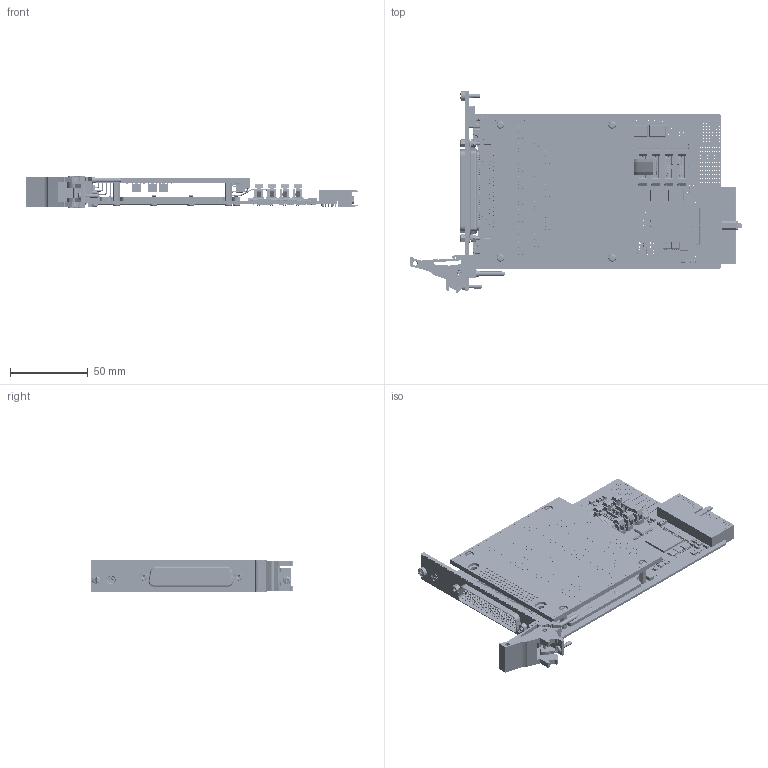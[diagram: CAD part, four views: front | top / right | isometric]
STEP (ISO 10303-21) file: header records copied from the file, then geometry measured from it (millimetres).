
FILE_DESCRIPTION (( 'STEP AP214' ), '1' );
FILE_NAME ('40-739-001 PXI MIL-STD-1553 Multiplexer Single 16-Channel 2-Pole.step', '2022-05-31T08:12:31', ( '' ), ( '' ), 'SwSTEP 2.0', 'SolidWorks 2021', '' );
FILE_SCHEMA (( 'AUTOMOTIVE_DESIGN' ));
Length unit declared in the file: millimetre
Products named in the file (83): C-MS-1069 Shielded Power Inductor; C-IC-548 1-Bit Flip-Flop 8-Pin SM8; C-CP-034; Z-MS-3676 8-Way Ribbon 2 inch; C-RS-490 Res 0603 82K SMT; C-BK-026 Bush Front Panel Mounting; C-SC-056 80V 250mA (DC) SOD323 Diode; C-FX-042 Screw M2.5x6 CSK Pozi_M 2.5x06 - C-FX-042; C-SC-146 Dual Transistor SOT-14; C-CN-107-BODY; P-FX-017 M2,5 Collar Posi-Slot Screw; C-MS-803 BEAD 120R 0603 2A 0R05 25%; C-CP-124 CAP 10nF CERAMIC SMT 0402; C-FX-165 Handle Body; C-FX-165 CPCI Ejector Handle; C-IC-458 LDO VOLTAGE REGULATOR 1.2V SOT; C-RS-1487 RES 100k 0.1W 25PPM 0603; C-IC-158 Buffer 3-State SOT-23 5-Pin; C-IC-338 4-Channel Digital Isolator 16-Pin SOIC W; C-IC-497 High Accuracy 3V to 17V Step Down Converter; A-FP-1088-L1 PXI 1-Slot Reversed 78-Way D-Type FP Assy; C-CP-131 CAP 3.3nF CERAMIC SMT 0402; C-CP-175 CAP 22uF 1206 25V X5R 10%; C-IC-425 SOICN 8PIN SD; C-CN-073-SCREW 4-40 UNC Screwlock_5mm Hexagonal spacer; C-RS-190 Res 0R0 SIZE 0603 SMT; C-CP-239  Power Line Filter; C-CN-073-NUT M2-5 Screwlock nut_C-FX-028 M2,5 Nut; A-PC-1416-A-# MIL-STD 16-1 MUX Daughter; C-CP-141 CAP 10UF 1206 35V X5R 10%; C-FX-1151 Hex Standoff, F-F, M2.5x12 4mm A-F, St_12mm Hexagonal spacer; C-CP-130 CAP 1uF CERAMIC SMT 0603; C-RS-521 Res 120R (0603) 1-16W 1% 100pp; C-CN-073 Screwlock 8mm Screw Lenght_1.5mm Space; C-BP-015 PXI 3U x 1 Slot Blank Panel; Z-FX-2001 FP Fixing - Bush + Screw; C-FX-025 Pcb Mounting Bracket; C-IC-310 SOT353 SD; C-CN-939 8-Way Ribbon Cable assembly 2 in _40-739; A-PC-1323-A-# RF MUX MOTHERBOARD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
Assembly tree (282 placements, depth 5):
  40-739-001 PXI MIL-STD-1553 Multiplexer Single 16-Channel 2-Pole
    A-PC-1323-A RF MUX MOTHERBOARD
      A-PC-1323-A-# RF MUX MOTHERBOARD
        C-PC-1323 RF MUX MOTHERBOARD WITH PXIe
        C-CN-355 Compact pci connector 3_Render
        C-CN-897 2x8 way Connector 1.27 pitch  x4
        C-CN-1071
          C-CN-107-BODY
          C-CN-107-PIN  x8
        C-CP-033 Capacitor 10nF SMT 0603  x3
        C-CP-034  x31
        C-CP-099 CAP 0.1uF 16V 0402 SMT  x14
        C-CP-124 CAP 10nF CERAMIC SMT 0402  x29
        C-CP-130 CAP 1uF CERAMIC SMT 0603  x4
        C-CP-131 CAP 3.3nF CERAMIC SMT 0402
        C-CP-139 CAP 4.7UF 1206 16V X7R 10%  x4
        C-CP-141 CAP 10UF 1206 35V X5R 10%  x8
        C-CP-175 CAP 22uF 1206 25V X5R 10%  x7
        C-CP-239  Power Line Filter  x3
        C-IC-158 Buffer 3-State SOT-23 5-Pin
        C-IC-310 SOT353 SD
        C-IC-338 4-Channel Digital Isolator 16-Pin SOIC W  x5
        C-IC-369 FPGA 17000 Cells 65nm Technology 1.2V 256-Pin FTBGA
        C-IC-425 SOICN 8PIN SD  x2
        C-IC-426 32-Flash Memory Standard Serial NOR 32Mbit SPI WSOIC-8
        C-IC-442 VSSOP 8PIN SD
        C-IC-458 LDO VOLTAGE REGULATOR 1.2V SOT  x2
        C-IC-497 High Accuracy 3V to 17V Step Down Converter
        C-IC-546 24 BIT BUS SWITCH 56PIN TVSOP  x2
        C-IC-548 1-Bit Flip-Flop 8-Pin SM8
        C-MS-803 BEAD 120R 0603 2A 0R05 25%  x4
        C-MS-1069 Shielded Power Inductor
        C-RS-147 Res 100R 0603 1-16W 1% 100PPM  x2
        C-RS-148 Res 1K 0603 1-16W 1% 100PPM  x2
        C-RS-152 Res 10K 0603 1-16W 1% 300PPM  x5
        C-RS-190 Res 0R0 SIZE 0603 SMT  x5
        C-RS-256 Res 100K (0603) 1.16W 1% 100pp SMT
        C-RS-490 Res 0603 82K SMT
        C-RS-521 Res 120R (0603) 1-16W 1% 100pp
        C-RS-659 RES NW 4K7 4RES 8PINS SMT1206  x4
        C-RS-1247 RES 510K 0603 0.1W 1% 100PPM
        C-RS-1487 RES 100k 0.1W 25PPM 0603
        C-SC-137 TVS DIODE ARRAY
        C-SC-146 Dual Transistor SOT-14  x2
    A-PC-1416-A MIL-STD 16-1 MUX Daughter
      A-PC-1416-A-# MIL-STD 16-1 MUX Daughter
        C-PC-1416 MIL-STD Daughter Card
        C-CN-1288 2 X 8 WAY HEADER RA M SM_LEAD STYLE1PINS8PLATINGFROWDH
        C-RL-260 Signal Relay Surface Mount_No Text  x16
        C-SC-056 80V 250mA (DC) SOD323 Diode  x15
        C-CP-034  x18
        C-IC-124 16-Bit Constant Current Sink Driver  x2
        C-RS-254 Res  0603  x2
        C-CP-140 CAP 10UF 1206 10V X7R 10%
    A-FP-1088-L1 PXI 1-Slot Reversed 78-Way D-Type FP Assy
      A-FP-1088 PXI 1-Slot Reversed 78-Way D-Type FP Assy
        C-FP-1088 PXI 1-Slot Reversed 78-Way D-Type FP
          C-BP-015 PXI 3U x 1 Slot Blank Panel
        L-FP-1088 PXI 1-Slot Reversed 78-Way D-Type FP Label
          L-FP-1088-# PXI 1-Slot Reversed 78-Way D-Type FP Label
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Bounding box: 213.7 x 129.63 x 20 mm (x, y, z)
Volume: 115696.5 mm3; surface area: 117098.1 mm2
Topology: 289 solids, 382 shells, 25432 faces, 64292 edges, 40757 vertices
Faces by surface type: plane 14512, cylinder 7002, cone 2335, torus 1290, bspline 161, sphere 132
Entity records: 558016 total; most frequent: CARTESIAN_POINT 78715, DIRECTION 78008, ORIENTED_EDGE 70509, EDGE_CURVE 35782, AXIS2_PLACEMENT_3D 28451, VERTEX_POINT 22980, VECTOR 21106, LINE 21106
